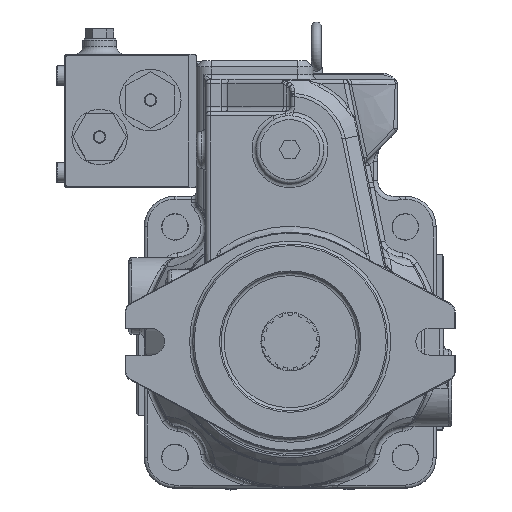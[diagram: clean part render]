
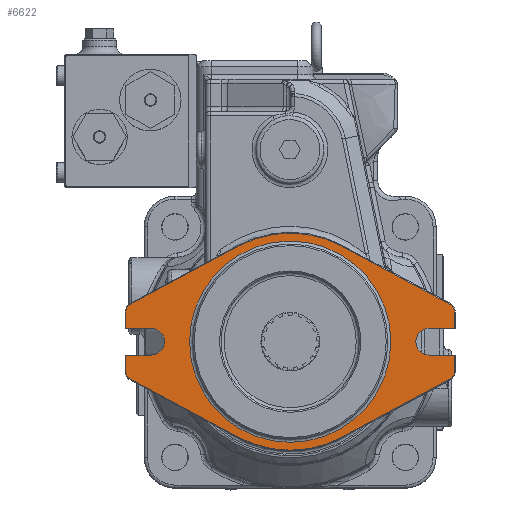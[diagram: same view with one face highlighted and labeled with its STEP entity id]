
A CAD part, top view. The second image highlights one B-rep face of the part: STEP entity #6622.
In plain terms, the highlighted planar face has unit normal (0, 0, 1).
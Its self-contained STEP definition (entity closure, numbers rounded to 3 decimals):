
#4634=CARTESIAN_POINT('',(-90.5,8.75,25.296));
#4635=VERTEX_POINT('',#4634);
#4642=CARTESIAN_POINT('',(-107.,8.75,25.296));
#4643=VERTEX_POINT('',#4642);
#4644=CARTESIAN_POINT('',(-90.5,8.75,25.296));
#4645=DIRECTION('',(-1.0,0.0,0.0));
#4646=VECTOR('',#4645,16.5);
#4647=LINE('',#4644,#4646);
#4648=EDGE_CURVE('',#4635,#4643,#4647,.T.);
#5018=CARTESIAN_POINT('',(90.5,-8.75,25.296));
#5019=VERTEX_POINT('',#5018);
#5026=CARTESIAN_POINT('',(107.,-8.75,25.296));
#5027=VERTEX_POINT('',#5026);
#5028=CARTESIAN_POINT('',(90.5,-8.75,25.296));
#5029=DIRECTION('',(1.0,0.0,0.0));
#5030=VECTOR('',#5029,16.5);
#5031=LINE('',#5028,#5030);
#5032=EDGE_CURVE('',#5019,#5027,#5031,.T.);
#5193=CARTESIAN_POINT('',(107.,8.75,25.296));
#5194=VERTEX_POINT('',#5193);
#5201=CARTESIAN_POINT('',(90.5,8.75,25.296));
#5202=VERTEX_POINT('',#5201);
#5203=CARTESIAN_POINT('',(107.,8.75,25.296));
#5204=DIRECTION('',(-1.0,0.0,0.0));
#5205=VECTOR('',#5204,16.5);
#5206=LINE('',#5203,#5205);
#5207=EDGE_CURVE('',#5194,#5202,#5206,.T.);
#5328=CARTESIAN_POINT('',(-107.,-8.75,25.296));
#5329=VERTEX_POINT('',#5328);
#5337=CARTESIAN_POINT('',(-107.,-19.23,25.296));
#5338=VERTEX_POINT('',#5337);
#5345=CARTESIAN_POINT('',(-107.,-19.23,25.296));
#5346=DIRECTION('',(0.0,1.0,0.0));
#5347=VECTOR('',#5346,10.48);
#5348=LINE('',#5345,#5347);
#5349=EDGE_CURVE('',#5338,#5329,#5348,.T.);
#5359=CARTESIAN_POINT('',(-103.872,-24.459,25.296));
#5360=VERTEX_POINT('',#5359);
#5367=CARTESIAN_POINT('',(-101.065,-19.23,25.296));
#5368=DIRECTION('',(0.,0.,-1.0));
#5369=DIRECTION('',(-0.473,-0.881,0.));
#5370=AXIS2_PLACEMENT_3D('',#5367,#5368,#5369);
#5371=CIRCLE('',#5370,5.935);
#5372=EDGE_CURVE('',#5360,#5338,#5371,.T.);
#5384=CARTESIAN_POINT('',(-33.433,-62.275,25.296));
#5385=VERTEX_POINT('',#5384);
#5392=CARTESIAN_POINT('',(-33.433,-62.275,25.296));
#5393=DIRECTION('',(-0.881,0.473,0.));
#5394=VECTOR('',#5393,79.948);
#5395=LINE('',#5392,#5394);
#5396=EDGE_CURVE('',#5385,#5360,#5395,.T.);
#5410=CARTESIAN_POINT('',(33.433,-62.275,25.296));
#5411=VERTEX_POINT('',#5410);
#5418=CARTESIAN_POINT('',(0.,0.,25.296));
#5419=DIRECTION('',(0.,0.,-1.0));
#5420=DIRECTION('',(0.473,-0.881,0.));
#5421=AXIS2_PLACEMENT_3D('',#5418,#5419,#5420);
#5422=CIRCLE('',#5421,70.683);
#5423=EDGE_CURVE('',#5411,#5385,#5422,.T.);
#5441=CARTESIAN_POINT('',(103.872,-24.459,25.296));
#5442=VERTEX_POINT('',#5441);
#5449=CARTESIAN_POINT('',(103.872,-24.459,25.296));
#5450=DIRECTION('',(-0.881,-0.473,0.));
#5451=VECTOR('',#5450,79.948);
#5452=LINE('',#5449,#5451);
#5453=EDGE_CURVE('',#5442,#5411,#5452,.T.);
#5470=CARTESIAN_POINT('',(107.,-19.23,25.296));
#5471=VERTEX_POINT('',#5470);
#5478=CARTESIAN_POINT('',(101.065,-19.23,25.296));
#5479=DIRECTION('',(0.0,0.0,-1.0));
#5480=DIRECTION('',(1.0,0.0,0.0));
#5481=AXIS2_PLACEMENT_3D('',#5478,#5479,#5480);
#5482=CIRCLE('',#5481,5.935);
#5483=EDGE_CURVE('',#5471,#5442,#5482,.T.);
#5496=CARTESIAN_POINT('',(107.,-8.75,25.296));
#5497=DIRECTION('',(0.0,-1.0,0.0));
#5498=VECTOR('',#5497,10.48);
#5499=LINE('',#5496,#5498);
#5500=EDGE_CURVE('',#5027,#5471,#5499,.T.);
#5532=CARTESIAN_POINT('',(-90.5,-8.75,25.296));
#5533=VERTEX_POINT('',#5532);
#5534=CARTESIAN_POINT('',(-107.,-8.75,25.296));
#5535=DIRECTION('',(1.0,0.0,0.0));
#5536=VECTOR('',#5535,16.5);
#5537=LINE('',#5534,#5536);
#5538=EDGE_CURVE('',#5329,#5533,#5537,.T.);
#5555=CARTESIAN_POINT('',(-33.433,62.275,25.296));
#5556=VERTEX_POINT('',#5555);
#5563=CARTESIAN_POINT('',(33.433,62.275,25.296));
#5564=VERTEX_POINT('',#5563);
#5565=CARTESIAN_POINT('',(0.,0.,25.296));
#5566=DIRECTION('',(0.,0.,-1.0));
#5567=DIRECTION('',(-0.473,0.881,0.));
#5568=AXIS2_PLACEMENT_3D('',#5565,#5566,#5567);
#5569=CIRCLE('',#5568,70.683);
#5570=EDGE_CURVE('',#5556,#5564,#5569,.T.);
#5593=CARTESIAN_POINT('',(-103.872,24.459,25.296));
#5594=VERTEX_POINT('',#5593);
#5601=CARTESIAN_POINT('',(-103.872,24.459,25.296));
#5602=DIRECTION('',(0.881,0.473,0.));
#5603=VECTOR('',#5602,79.948);
#5604=LINE('',#5601,#5603);
#5605=EDGE_CURVE('',#5594,#5556,#5604,.T.);
#5617=CARTESIAN_POINT('',(103.872,24.459,25.296));
#5618=VERTEX_POINT('',#5617);
#5627=CARTESIAN_POINT('',(33.433,62.275,25.296));
#5628=DIRECTION('',(0.881,-0.473,0.));
#5629=VECTOR('',#5628,79.948);
#5630=LINE('',#5627,#5629);
#5631=EDGE_CURVE('',#5564,#5618,#5630,.T.);
#5641=CARTESIAN_POINT('',(-107.,19.23,25.296));
#5642=VERTEX_POINT('',#5641);
#5649=CARTESIAN_POINT('',(-101.065,19.23,25.296));
#5650=DIRECTION('',(0.0,0.0,-1.0));
#5651=DIRECTION('',(-1.0,0.0,0.0));
#5652=AXIS2_PLACEMENT_3D('',#5649,#5650,#5651);
#5653=CIRCLE('',#5652,5.935);
#5654=EDGE_CURVE('',#5642,#5594,#5653,.T.);
#5666=CARTESIAN_POINT('',(107.,19.23,25.296));
#5667=VERTEX_POINT('',#5666);
#5676=CARTESIAN_POINT('',(101.065,19.23,25.296));
#5677=DIRECTION('',(0.,0.,-1.0));
#5678=DIRECTION('',(0.473,0.881,0.));
#5679=AXIS2_PLACEMENT_3D('',#5676,#5677,#5678);
#5680=CIRCLE('',#5679,5.935);
#5681=EDGE_CURVE('',#5618,#5667,#5680,.T.);
#5692=CARTESIAN_POINT('',(-107.,8.75,25.296));
#5693=DIRECTION('',(0.0,1.0,0.0));
#5694=VECTOR('',#5693,10.48);
#5695=LINE('',#5692,#5694);
#5696=EDGE_CURVE('',#4643,#5642,#5695,.T.);
#5711=CARTESIAN_POINT('',(107.,19.23,25.296));
#5712=DIRECTION('',(0.0,-1.0,0.0));
#5713=VECTOR('',#5712,10.48);
#5714=LINE('',#5711,#5713);
#5715=EDGE_CURVE('',#5667,#5194,#5714,.T.);
#6568=CARTESIAN_POINT('',(65.487,0.,25.296));
#6569=VERTEX_POINT('',#6568);
#6570=CARTESIAN_POINT('',(0.,0.,25.296));
#6571=DIRECTION('',(0.0,0.0,1.0));
#6572=DIRECTION('',(-1.0,0.0,0.0));
#6573=AXIS2_PLACEMENT_3D('',#6570,#6571,#6572);
#6574=CIRCLE('',#6573,65.487);
#6575=EDGE_CURVE('',#6569,#6569,#6574,.T.);
#6580=CARTESIAN_POINT('',(0.,0.,25.296));
#6581=DIRECTION('',(0.0,0.0,1.0));
#6582=DIRECTION('',(1.0,0.0,0.0));
#6583=AXIS2_PLACEMENT_3D('',#6580,#6581,#6582);
#6584=PLANE('',#6583);
#6585=ORIENTED_EDGE('',*,*,#5500,.F.);
#6586=ORIENTED_EDGE('',*,*,#5032,.F.);
#6587=CARTESIAN_POINT('',(90.5,0.,25.296));
#6588=DIRECTION('',(0.0,0.0,1.0));
#6589=DIRECTION('',(0.0,1.0,0.0));
#6590=AXIS2_PLACEMENT_3D('',#6587,#6588,#6589);
#6591=CIRCLE('',#6590,8.75);
#6592=EDGE_CURVE('',#5202,#5019,#6591,.T.);
#6593=ORIENTED_EDGE('',*,*,#6592,.F.);
#6594=ORIENTED_EDGE('',*,*,#5207,.F.);
#6595=ORIENTED_EDGE('',*,*,#5715,.F.);
#6596=ORIENTED_EDGE('',*,*,#5681,.F.);
#6597=ORIENTED_EDGE('',*,*,#5631,.F.);
#6598=ORIENTED_EDGE('',*,*,#5570,.F.);
#6599=ORIENTED_EDGE('',*,*,#5605,.F.);
#6600=ORIENTED_EDGE('',*,*,#5654,.F.);
#6601=ORIENTED_EDGE('',*,*,#5696,.F.);
#6602=ORIENTED_EDGE('',*,*,#4648,.F.);
#6603=CARTESIAN_POINT('',(-90.5,0.,25.296));
#6604=DIRECTION('',(0.0,0.0,1.0));
#6605=DIRECTION('',(0.0,-1.0,0.0));
#6606=AXIS2_PLACEMENT_3D('',#6603,#6604,#6605);
#6607=CIRCLE('',#6606,8.75);
#6608=EDGE_CURVE('',#5533,#4635,#6607,.T.);
#6609=ORIENTED_EDGE('',*,*,#6608,.F.);
#6610=ORIENTED_EDGE('',*,*,#5538,.F.);
#6611=ORIENTED_EDGE('',*,*,#5349,.F.);
#6612=ORIENTED_EDGE('',*,*,#5372,.F.);
#6613=ORIENTED_EDGE('',*,*,#5396,.F.);
#6614=ORIENTED_EDGE('',*,*,#5423,.F.);
#6615=ORIENTED_EDGE('',*,*,#5453,.F.);
#6616=ORIENTED_EDGE('',*,*,#5483,.F.);
#6617=EDGE_LOOP('',(#6585,#6586,#6593,#6594,#6595,#6596,#6597,#6598,#6599,#6600,#6601,#6602,#6609,#6610,#6611,#6612,#6613,#6614,#6615,#6616));
#6618=FACE_OUTER_BOUND('',#6617,.T.);
#6619=ORIENTED_EDGE('',*,*,#6575,.F.);
#6620=EDGE_LOOP('',(#6619));
#6621=FACE_BOUND('',#6620,.T.);
#6622=ADVANCED_FACE('',(#6618,#6621),#6584,.T.);
